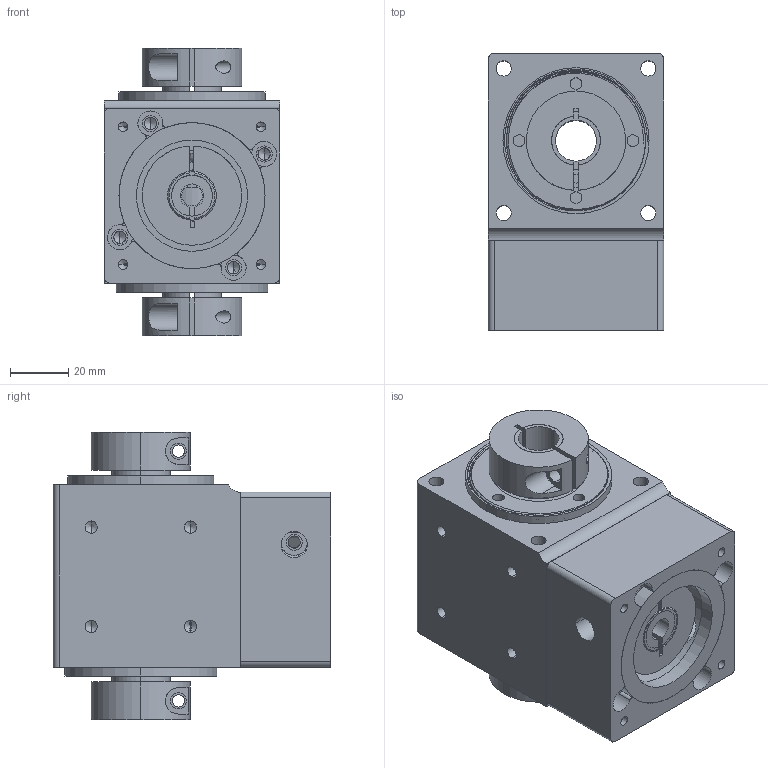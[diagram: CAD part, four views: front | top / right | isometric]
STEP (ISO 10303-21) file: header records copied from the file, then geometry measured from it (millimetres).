
FILE_DESCRIPTION (( 'STEP AP203' ), '1' );
FILE_NAME ('×°ÅäÌå2.STEP', '2025-09-08T08:06:17', ( 'Microsoft' ), ( 'JSSM8' ), 'SwSTEP 2.0', 'SolidWorks 2015', '' );
FILE_SCHEMA (( 'CONFIG_CONTROL_DESIGN' ));
Length unit declared in the file: millimetre
Products named in the file (13): 步进垫圈50-38.1; deep groove ball bearings gb_Rolling bearings 6003 GB 276-94; 綴楊擘2ㄗ祭輛ㄘ; 標杶; 蹟譫; tapered roller bearings gb_Rolling bearings 30204 GB 297-94; 蚾饜极2; PVFG060-L1-()-P()-8-38.1-66.67-M4双孔（配57步进尺寸）; 褲极; 输入轴; 20-32-5蚐猾; 14-8粣杶; 60邧謂怀堤粣
Assembly tree (17 placements, depth 3):
  蚾饜极2
    PVFG060-L1-()-P()-8-38.1-66.67-M4双孔（配57步进尺寸）
      褲极
      標杶  x3
      蹟譫  x2
      输入轴
      deep groove ball bearings gb_Rolling bearings 6003 GB 276-94
      tapered roller bearings gb_Rolling bearings 30204 GB 297-94  x2
      20-32-5蚐猾  x2
      60邧謂怀堤粣
      14-8粣杶
      綴楊擘2ㄗ祭輛ㄘ
    步进垫圈50-38.1
Bounding box: 60 x 95 x 98.5 mm (x, y, z)
Volume: 272538.8 mm3; surface area: 131255 mm2
Topology: 16 solids, 16 shells, 940 faces, 2965 edges, 1924 vertices
Faces by surface type: bspline 304, cylinder 278, plane 209, cone 149
Entity records: 33774 total; most frequent: CARTESIAN_POINT 15562, ORIENTED_EDGE 4008, DIRECTION 3031, EDGE_CURVE 2004, VERTEX_POINT 1317, AXIS2_PLACEMENT_3D 1299, CIRCLE 816, EDGE_LOOP 793
